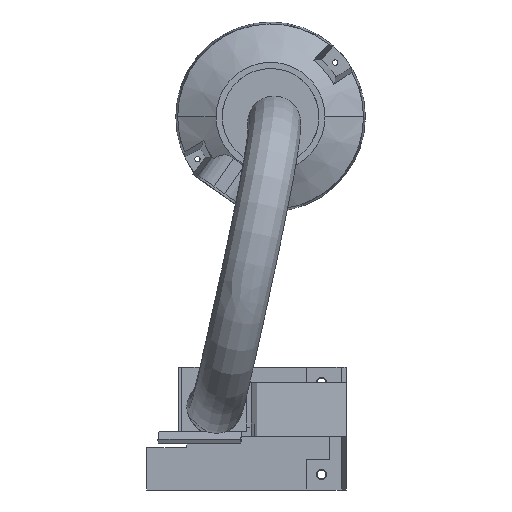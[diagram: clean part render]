
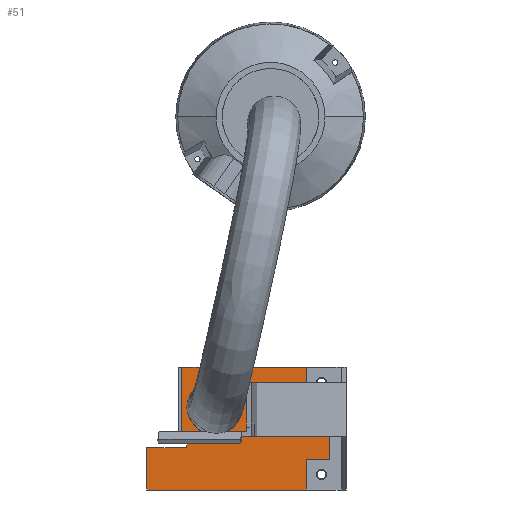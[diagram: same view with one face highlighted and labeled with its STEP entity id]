
A CAD part, left-side view. The second image highlights one B-rep face of the part: STEP entity #51.
In plain terms, the highlighted planar face has unit normal (-1, 0, 0).
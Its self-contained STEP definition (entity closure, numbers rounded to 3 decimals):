
#51 = ADVANCED_FACE ( 'NONE', ( #9640 ), #14567, .T. ) ;
#823 = EDGE_CURVE ( 'NONE', #9359, #4337, #9788, .T. ) ;
#829 = EDGE_CURVE ( 'NONE', #9448, #4337, #9798, .T. ) ;
#831 = EDGE_CURVE ( 'NONE', #9290, #9449, #9802, .T. ) ;
#832 = EDGE_CURVE ( 'NONE', #4109, #9450, #9806, .T. ) ;
#833 = EDGE_CURVE ( 'NONE', #9450, #9448, #9808, .T. ) ;
#834 = EDGE_CURVE ( 'NONE', #4109, #9449, #9810, .T. ) ;
#851 = EDGE_CURVE ( 'NONE', #4343, #9290, #9841, .T. ) ;
#1596 = AXIS2_PLACEMENT_3D ( 'NONE', #14570, #1889, #1893 ) ;
#1889 = DIRECTION ( 'NONE',  ( -1., 0., 0. ) ) ;
#1893 = DIRECTION ( 'NONE',  ( 0., -1., 0. ) ) ;
#1985 = EDGE_CURVE ( 'NONE', #4343, #4270, #4735, .T. ) ;
#2354 = CARTESIAN_POINT ( 'NONE',  ( 440., -76.5, 1759. ) ) ;
#2357 = DIRECTION ( 'NONE',  ( 0., 0., -1. ) ) ;
#2359 = CARTESIAN_POINT ( 'NONE',  ( 440., -76.5, 1679. ) ) ;
#2362 = DIRECTION ( 'NONE',  ( 0., 1., 0. ) ) ;
#2374 = CARTESIAN_POINT ( 'NONE',  ( 440., -76.5, 1759. ) ) ;
#2377 = DIRECTION ( 'NONE',  ( 0., -1., 0. ) ) ;
#2674 = CARTESIAN_POINT ( 'NONE',  ( 440., -46.5, 1639. ) ) ;
#2677 = DIRECTION ( 'NONE',  ( 0., 0., 1. ) ) ;
#2714 = CARTESIAN_POINT ( 'NONE',  ( 440., -83.5, 1639. ) ) ;
#2715 = DIRECTION ( 'NONE',  ( 0., 1., 0. ) ) ;
#3575 = ORIENTED_EDGE ( 'NONE', *, *, #14388, .T. ) ;
#3595 = ORIENTED_EDGE ( 'NONE', *, *, #823, .F. ) ;
#3597 = ORIENTED_EDGE ( 'NONE', *, *, #14348, .F. ) ;
#3598 = ORIENTED_EDGE ( 'NONE', *, *, #14344, .F. ) ;
#3600 = ORIENTED_EDGE ( 'NONE', *, *, #14345, .F. ) ;
#3738 = CARTESIAN_POINT ( 'NONE',  ( 440., -46.5, 1639. ) ) ;
#3739 = DIRECTION ( 'NONE',  ( 0., 0., 1. ) ) ;
#4073 = ORIENTED_EDGE ( 'NONE', *, *, #1985, .F. ) ;
#4109 = VERTEX_POINT ( 'NONE', #15488 ) ;
#4206 = VERTEX_POINT ( 'NONE', #15519 ) ;
#4270 = VERTEX_POINT ( 'NONE', #15530 ) ;
#4337 = VERTEX_POINT ( 'NONE', #15537 ) ;
#4343 = VERTEX_POINT ( 'NONE', #15540 ) ;
#4366 = VERTEX_POINT ( 'NONE', #15538 ) ;
#4502 = EDGE_LOOP ( 'NONE', ( #5861, #4073, #5851, #5850, #5845, #5856, #5858, #15077, #3595, #5872, #3575, #3600, #3598, #3597 ) ) ;
#4735 = LINE ( 'NONE', #15502, #4738 ) ;
#4738 = VECTOR ( 'NONE', #15503, 1000. ) ;
#4816 = LINE ( 'NONE', #2354, #4819 ) ;
#4817 = LINE ( 'NONE', #2359, #4821 ) ;
#4819 = VECTOR ( 'NONE', #2357, 1000. ) ;
#4821 = VECTOR ( 'NONE', #2362, 1000. ) ;
#4824 = LINE ( 'NONE', #2374, #4827 ) ;
#4827 = VECTOR ( 'NONE', #2377, 1000. ) ;
#4896 = LINE ( 'NONE', #2674, #4899 ) ;
#4899 = VECTOR ( 'NONE', #2677, 1000. ) ;
#4912 = LINE ( 'NONE', #2714, #4915 ) ;
#4915 = VECTOR ( 'NONE', #2715, 1000. ) ;
#5062 = LINE ( 'NONE', #3738, #5065 ) ;
#5065 = VECTOR ( 'NONE', #3739, 1000. ) ;
#5845 = ORIENTED_EDGE ( 'NONE', *, *, #834, .F. ) ;
#5850 = ORIENTED_EDGE ( 'NONE', *, *, #831, .T. ) ;
#5851 = ORIENTED_EDGE ( 'NONE', *, *, #851, .T. ) ;
#5856 = ORIENTED_EDGE ( 'NONE', *, *, #832, .T. ) ;
#5858 = ORIENTED_EDGE ( 'NONE', *, *, #833, .T. ) ;
#5861 = ORIENTED_EDGE ( 'NONE', *, *, #14473, .T. ) ;
#5872 = ORIENTED_EDGE ( 'NONE', *, *, #14396, .F. ) ;
#9290 = VERTEX_POINT ( 'NONE', #15564 ) ;
#9359 = VERTEX_POINT ( 'NONE', #15630 ) ;
#9402 = VERTEX_POINT ( 'NONE', #15673 ) ;
#9406 = VERTEX_POINT ( 'NONE', #15677 ) ;
#9448 = VERTEX_POINT ( 'NONE', #15719 ) ;
#9449 = VERTEX_POINT ( 'NONE', #15720 ) ;
#9450 = VERTEX_POINT ( 'NONE', #15721 ) ;
#9456 = VERTEX_POINT ( 'NONE', #15727 ) ;
#9640 = FACE_OUTER_BOUND ( 'NONE', #4502, .T. ) ;
#9788 = LINE ( 'NONE', #15333, #9791 ) ;
#9791 = VECTOR ( 'NONE', #15334, 1000. ) ;
#9798 = LINE ( 'NONE', #15336, #9803 ) ;
#9802 = LINE ( 'NONE', #15345, #9807 ) ;
#9803 = VECTOR ( 'NONE', #15346, 1000. ) ;
#9806 = LINE ( 'NONE', #15350, #9809 ) ;
#9807 = VECTOR ( 'NONE', #15349, 1000. ) ;
#9808 = LINE ( 'NONE', #15352, #9811 ) ;
#9809 = VECTOR ( 'NONE', #15351, 1000. ) ;
#9810 = LINE ( 'NONE', #15354, #9813 ) ;
#9811 = VECTOR ( 'NONE', #15353, 1000. ) ;
#9813 = VECTOR ( 'NONE', #15355, 1000. ) ;
#9841 = LINE ( 'NONE', #15389, #9844 ) ;
#9844 = VECTOR ( 'NONE', #15385, 1000. ) ;
#14344 = EDGE_CURVE ( 'NONE', #9456, #9402, #4816, .T. ) ;
#14345 = EDGE_CURVE ( 'NONE', #9402, #4206, #4817, .T. ) ;
#14348 = EDGE_CURVE ( 'NONE', #9406, #9456, #4824, .T. ) ;
#14388 = EDGE_CURVE ( 'NONE', #4366, #4206, #4896, .T. ) ;
#14396 = EDGE_CURVE ( 'NONE', #4366, #9359, #4912, .T. ) ;
#14473 = EDGE_CURVE ( 'NONE', #9406, #4270, #5062, .T. ) ;
#14567 = PLANE ( 'NONE',  #1596 ) ;
#14570 = CARTESIAN_POINT ( 'NONE',  ( 440., -83.5, 1799. ) ) ;
#15077 = ORIENTED_EDGE ( 'NONE', *, *, #829, .T. ) ;
#15333 = CARTESIAN_POINT ( 'NONE',  ( 440., 161.5, 1639. ) ) ;
#15334 = DIRECTION ( 'NONE',  ( 0., 0., 1. ) ) ;
#15336 = CARTESIAN_POINT ( 'NONE',  ( 440., 161.5, 1694. ) ) ;
#15345 = CARTESIAN_POINT ( 'NONE',  ( 440., 116.5, 1699. ) ) ;
#15346 = DIRECTION ( 'NONE',  ( 0., 1., 0. ) ) ;
#15349 = DIRECTION ( 'NONE',  ( 0., 0., -1. ) ) ;
#15350 = CARTESIAN_POINT ( 'NONE',  ( 440., 109.5, 1699. ) ) ;
#15351 = DIRECTION ( 'NONE',  ( 0., -1., 0. ) ) ;
#15352 = CARTESIAN_POINT ( 'NONE',  ( 440., 109.5, 1694. ) ) ;
#15353 = DIRECTION ( 'NONE',  ( 0., 0., -1. ) ) ;
#15354 = CARTESIAN_POINT ( 'NONE',  ( 440., -83.5, 1699. ) ) ;
#15355 = DIRECTION ( 'NONE',  ( 0., 1., 0. ) ) ;
#15385 = DIRECTION ( 'NONE',  ( 0., 1., 0. ) ) ;
#15389 = CARTESIAN_POINT ( 'NONE',  ( 440., 111.5, 1799. ) ) ;
#15488 = CARTESIAN_POINT ( 'NONE',  ( 440., 111.5, 1699. ) ) ;
#15502 = CARTESIAN_POINT ( 'NONE',  ( 440., -83.5, 1799. ) ) ;
#15503 = DIRECTION ( 'NONE',  ( 0., -1., 0. ) ) ;
#15519 = CARTESIAN_POINT ( 'NONE',  ( 440., -46.5, 1679. ) ) ;
#15530 = CARTESIAN_POINT ( 'NONE',  ( 440., -46.5, 1799. ) ) ;
#15537 = CARTESIAN_POINT ( 'NONE',  ( 440., 161.5, 1694. ) ) ;
#15538 = CARTESIAN_POINT ( 'NONE',  ( 440., -46.5, 1639. ) ) ;
#15540 = CARTESIAN_POINT ( 'NONE',  ( 440., 111.5, 1799. ) ) ;
#15564 = CARTESIAN_POINT ( 'NONE',  ( 440., 116.5, 1799. ) ) ;
#15630 = CARTESIAN_POINT ( 'NONE',  ( 440., 161.5, 1639. ) ) ;
#15673 = CARTESIAN_POINT ( 'NONE',  ( 440., -76.5, 1679. ) ) ;
#15677 = CARTESIAN_POINT ( 'NONE',  ( 440., -46.5, 1759. ) ) ;
#15719 = CARTESIAN_POINT ( 'NONE',  ( 440., 109.5, 1694. ) ) ;
#15720 = CARTESIAN_POINT ( 'NONE',  ( 440., 116.5, 1699. ) ) ;
#15721 = CARTESIAN_POINT ( 'NONE',  ( 440., 109.5, 1699. ) ) ;
#15727 = CARTESIAN_POINT ( 'NONE',  ( 440., -76.5, 1759. ) ) ;
